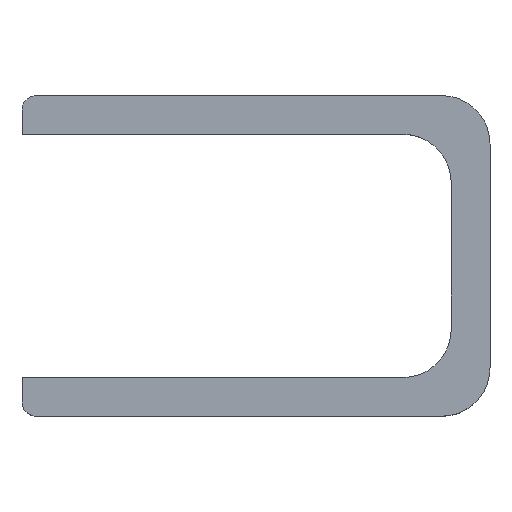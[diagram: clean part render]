
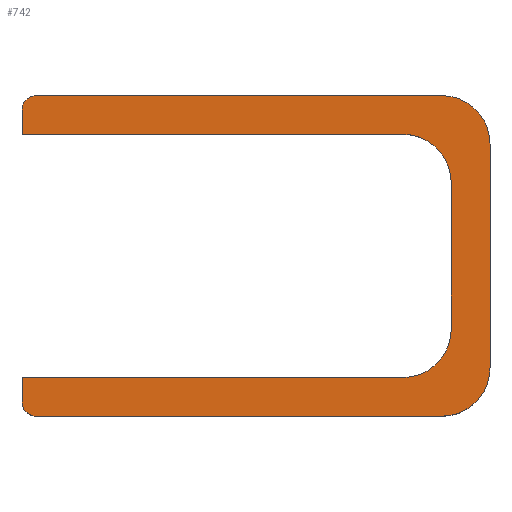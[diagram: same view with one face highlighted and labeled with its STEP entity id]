
A CAD part, top view. The second image highlights one B-rep face of the part: STEP entity #742.
In plain terms, the highlighted planar face has unit normal (0, 0, 1).
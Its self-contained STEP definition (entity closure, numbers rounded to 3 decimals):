
#58=FACE_OUTER_BOUND('',#96,.T.);
#96=EDGE_LOOP('',(#659,#660,#661,#662,#663,#664,#665,#666,#667,#668,#669,
#670,#671,#672));
#99=CIRCLE('',#762,5.);
#104=CIRCLE('',#786,5.);
#105=CIRCLE('',#796,1.5);
#106=CIRCLE('',#799,5.);
#107=CIRCLE('',#802,5.);
#108=CIRCLE('',#805,1.5);
#119=LINE('',#1029,#211);
#179=LINE('',#1158,#271);
#186=LINE('',#1172,#278);
#189=LINE('',#1180,#281);
#190=LINE('',#1183,#282);
#193=LINE('',#1191,#285);
#196=LINE('',#1199,#288);
#199=LINE('',#1207,#291);
#211=VECTOR('',#827,10.);
#271=VECTOR('',#935,10.);
#278=VECTOR('',#952,10.);
#281=VECTOR('',#963,10.);
#282=VECTOR('',#966,10.);
#285=VECTOR('',#975,10.);
#288=VECTOR('',#984,10.);
#291=VECTOR('',#993,10.);
#304=VERTEX_POINT('',#1026);
#305=VERTEX_POINT('',#1028);
#307=VERTEX_POINT('',#1034);
#350=VERTEX_POINT('',#1156);
#351=VERTEX_POINT('',#1160);
#352=VERTEX_POINT('',#1170);
#353=VERTEX_POINT('',#1178);
#354=VERTEX_POINT('',#1182);
#355=VERTEX_POINT('',#1186);
#356=VERTEX_POINT('',#1190);
#357=VERTEX_POINT('',#1194);
#358=VERTEX_POINT('',#1198);
#359=VERTEX_POINT('',#1202);
#360=VERTEX_POINT('',#1206);
#373=EDGE_CURVE('',#305,#304,#119,.T.);
#377=EDGE_CURVE('',#304,#307,#99,.T.);
#438=EDGE_CURVE('',#307,#350,#179,.T.);
#440=EDGE_CURVE('',#350,#351,#104,.T.);
#446=EDGE_CURVE('',#351,#352,#186,.T.);
#449=EDGE_CURVE('',#352,#353,#189,.T.);
#450=EDGE_CURVE('',#354,#305,#190,.T.);
#452=EDGE_CURVE('',#355,#354,#105,.T.);
#454=EDGE_CURVE('',#356,#355,#193,.T.);
#456=EDGE_CURVE('',#357,#356,#106,.T.);
#458=EDGE_CURVE('',#358,#357,#196,.T.);
#460=EDGE_CURVE('',#359,#358,#107,.T.);
#462=EDGE_CURVE('',#360,#359,#199,.T.);
#464=EDGE_CURVE('',#353,#360,#108,.T.);
#659=ORIENTED_EDGE('',*,*,#464,.T.);
#660=ORIENTED_EDGE('',*,*,#462,.T.);
#661=ORIENTED_EDGE('',*,*,#460,.T.);
#662=ORIENTED_EDGE('',*,*,#458,.T.);
#663=ORIENTED_EDGE('',*,*,#456,.T.);
#664=ORIENTED_EDGE('',*,*,#454,.T.);
#665=ORIENTED_EDGE('',*,*,#452,.T.);
#666=ORIENTED_EDGE('',*,*,#450,.T.);
#667=ORIENTED_EDGE('',*,*,#373,.T.);
#668=ORIENTED_EDGE('',*,*,#377,.T.);
#669=ORIENTED_EDGE('',*,*,#438,.T.);
#670=ORIENTED_EDGE('',*,*,#440,.T.);
#671=ORIENTED_EDGE('',*,*,#446,.T.);
#672=ORIENTED_EDGE('',*,*,#449,.T.);
#704=PLANE('',#806);
#742=ADVANCED_FACE('',(#58),#704,.T.);
#762=AXIS2_PLACEMENT_3D('',#1036,#833,#834);
#786=AXIS2_PLACEMENT_3D('',#1162,#939,#940);
#796=AXIS2_PLACEMENT_3D('',#1187,#970,#971);
#799=AXIS2_PLACEMENT_3D('',#1195,#979,#980);
#802=AXIS2_PLACEMENT_3D('',#1203,#988,#989);
#805=AXIS2_PLACEMENT_3D('',#1210,#997,#998);
#806=AXIS2_PLACEMENT_3D('',#1211,#999,#1000);
#827=DIRECTION('',(1.,0.,0.));
#833=DIRECTION('center_axis',(0.,0.,-1.));
#834=DIRECTION('ref_axis',(1.,0.,0.));
#935=DIRECTION('',(0.,-1.,0.));
#939=DIRECTION('center_axis',(0.,0.,-1.));
#940=DIRECTION('ref_axis',(0.,-1.,0.));
#952=DIRECTION('',(-1.,0.,0.));
#963=DIRECTION('',(0.,-1.,0.));
#966=DIRECTION('',(0.,-1.,0.));
#970=DIRECTION('center_axis',(0.,0.,1.));
#971=DIRECTION('ref_axis',(0.,1.,0.));
#975=DIRECTION('',(-1.,0.,0.));
#979=DIRECTION('center_axis',(0.,0.,1.));
#980=DIRECTION('ref_axis',(1.,0.,0.));
#984=DIRECTION('',(0.,1.,0.));
#988=DIRECTION('center_axis',(0.,0.,1.));
#989=DIRECTION('ref_axis',(0.,-1.,0.));
#993=DIRECTION('',(1.,0.,0.));
#997=DIRECTION('center_axis',(0.,0.,1.));
#998=DIRECTION('ref_axis',(-1.,0.,0.));
#999=DIRECTION('center_axis',(0.,0.,1.));
#1000=DIRECTION('ref_axis',(-1.,0.,0.));
#1026=CARTESIAN_POINT('',(28.3,25.05,10.));
#1028=CARTESIAN_POINT('',(-11.,25.05,10.));
#1029=CARTESIAN_POINT('',(-11.,25.05,10.));
#1034=CARTESIAN_POINT('',(33.3,20.05,10.));
#1036=CARTESIAN_POINT('Origin',(28.3,20.05,10.));
#1156=CARTESIAN_POINT('',(33.3,4.95,10.));
#1158=CARTESIAN_POINT('',(33.3,20.05,10.));
#1160=CARTESIAN_POINT('',(28.3,-0.05,10.));
#1162=CARTESIAN_POINT('Origin',(28.3,4.95,10.));
#1170=CARTESIAN_POINT('',(-11.,-0.05,10.));
#1172=CARTESIAN_POINT('',(28.3,-0.05,10.));
#1178=CARTESIAN_POINT('',(-11.,-2.55,10.));
#1180=CARTESIAN_POINT('',(-11.,-2.55,10.));
#1182=CARTESIAN_POINT('',(-11.,27.55,10.));
#1183=CARTESIAN_POINT('',(-11.,-2.55,10.));
#1186=CARTESIAN_POINT('',(-9.5,29.05,10.));
#1187=CARTESIAN_POINT('Origin',(-9.5,27.55,10.));
#1190=CARTESIAN_POINT('',(32.3,29.05,10.));
#1191=CARTESIAN_POINT('',(-9.5,29.05,10.));
#1194=CARTESIAN_POINT('',(37.3,24.05,10.));
#1195=CARTESIAN_POINT('Origin',(32.3,24.05,10.));
#1198=CARTESIAN_POINT('',(37.3,0.95,10.));
#1199=CARTESIAN_POINT('',(37.3,24.05,10.));
#1202=CARTESIAN_POINT('',(32.3,-4.05,10.));
#1203=CARTESIAN_POINT('Origin',(32.3,0.95,10.));
#1206=CARTESIAN_POINT('',(-9.5,-4.05,10.));
#1207=CARTESIAN_POINT('',(32.3,-4.05,10.));
#1210=CARTESIAN_POINT('Origin',(-9.5,-2.55,10.));
#1211=CARTESIAN_POINT('Origin',(13.15,12.5,10.));
